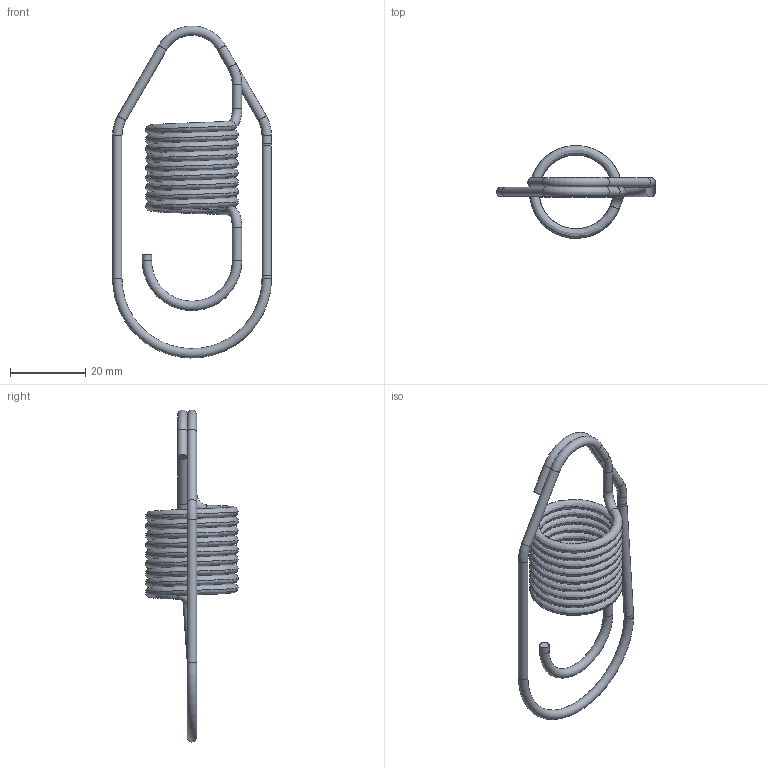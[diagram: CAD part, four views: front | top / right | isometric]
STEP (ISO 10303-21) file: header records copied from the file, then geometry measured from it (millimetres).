
FILE_DESCRIPTION(/* description */ (''),/* implementation_level */ '2;1');
FILE_NAME(/* name */ '3DCAD_AC_SL_ERS.stp',/* time_stamp */ '2017-07-28T13:20:14+02:00',/* author */ ('CC2'),/* organization */ ('Leuze electronic'),/* preprocessor_version */ 'ST-DEVELOPER v15',/* originating_system */ 'SIEMENS PLM Software NX 8.5',/* authorisation */ '');
FILE_SCHEMA (('AUTOMOTIVE_DESIGN { 1 0 10303 214 3 1 1 1 }'));
Length unit declared in the file: millimetre
Products named in the file (1): 19-102644_00.0
Bounding box: 42.1 x 24.58 x 87.97 mm (x, y, z)
Volume: 4571.1 mm3; surface area: 7326.5 mm2
Topology: 1 solids, 1 shells, 25 faces, 52 edges, 29 vertices
Faces by surface type: torus 11, cylinder 10, bspline 2, plane 2
Full cylindrical faces by diameter (mm): 2.499 x10
Entity records: 3046 total; most frequent: CARTESIAN_POINT 2584, DIRECTION 102, ORIENTED_EDGE 58, AXIS2_PLACEMENT_3D 51, EDGE_LOOP 46, FACE_BOUND 42, EDGE_CURVE 29, VERTEX_POINT 27
